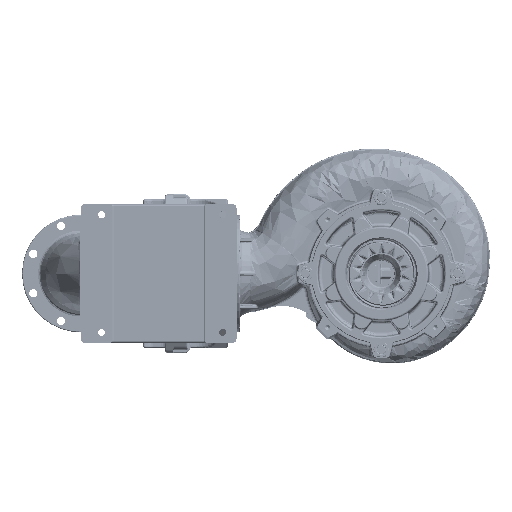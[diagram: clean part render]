
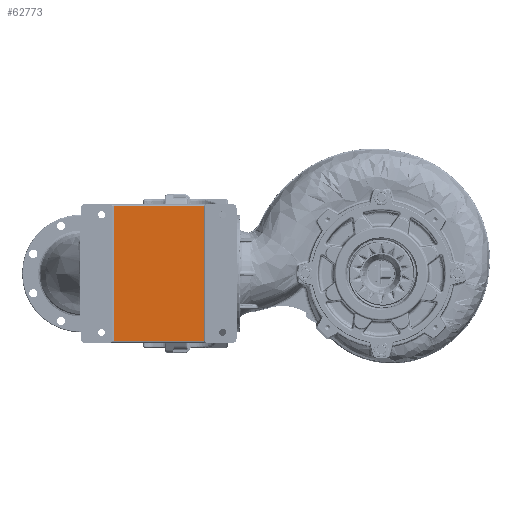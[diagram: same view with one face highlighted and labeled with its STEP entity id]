
A CAD part, front view. The second image highlights one B-rep face of the part: STEP entity #62773.
In plain terms, the highlighted planar face has unit normal (0, -1, 0).
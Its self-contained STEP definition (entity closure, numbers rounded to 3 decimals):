
#6106 = CARTESIAN_POINT ( 'NONE',  ( -779., -699.702, 195. ) ) ;
#8032 = VERTEX_POINT ( 'NONE', #438526 ) ;
#28357 = VECTOR ( 'NONE', #171329, 1000. ) ;
#34060 = EDGE_CURVE ( 'NONE', #409146, #8032, #282440, .T. ) ;
#34143 = LINE ( 'NONE', #88910, #28357 ) ;
#62773 = ADVANCED_FACE ( 'NONE', ( #304450 ), #70603, .F. ) ;
#70603 = PLANE ( 'NONE',  #296188 ) ;
#87989 = ORIENTED_EDGE ( 'NONE', *, *, #182822, .T. ) ;
#88877 = LINE ( 'NONE', #318856, #492190 ) ;
#88910 = CARTESIAN_POINT ( 'NONE',  ( -774., -699.702, -200. ) ) ;
#89254 = EDGE_CURVE ( 'NONE', #379723, #361858, #279389, .T. ) ;
#89812 = CARTESIAN_POINT ( 'NONE',  ( -774., -699.702, -195. ) ) ;
#133929 = ORIENTED_EDGE ( 'NONE', *, *, #89254, .T. ) ;
#144675 = DIRECTION ( 'NONE',  ( 0., 0., 1. ) ) ;
#148595 = EDGE_LOOP ( 'NONE', ( #133929, #450123, #322228, #87989 ) ) ;
#171329 = DIRECTION ( 'NONE',  ( 0., 0., -1. ) ) ;
#182822 = EDGE_CURVE ( 'NONE', #8032, #379723, #34143, .T. ) ;
#223633 = DIRECTION ( 'NONE',  ( 0., 1., 0. ) ) ;
#223785 = CARTESIAN_POINT ( 'NONE',  ( -509., -699.702, -195. ) ) ;
#228755 = DIRECTION ( 'NONE',  ( 1., 0., 0. ) ) ;
#241523 = DIRECTION ( 'NONE',  ( 0., 0., 1. ) ) ;
#279389 = LINE ( 'NONE', #223785, #471861 ) ;
#282440 = LINE ( 'NONE', #6106, #481130 ) ;
#291017 = EDGE_CURVE ( 'NONE', #361858, #409146, #88877, .T. ) ;
#296188 = AXIS2_PLACEMENT_3D ( 'NONE', #336274, #223633, #144675 ) ;
#304450 = FACE_OUTER_BOUND ( 'NONE', #148595, .T. ) ;
#318856 = CARTESIAN_POINT ( 'NONE',  ( -514., -699.702, 200. ) ) ;
#322228 = ORIENTED_EDGE ( 'NONE', *, *, #34060, .T. ) ;
#336274 = CARTESIAN_POINT ( 'NONE',  ( -779., -699.702, -230. ) ) ;
#361858 = VERTEX_POINT ( 'NONE', #406764 ) ;
#379723 = VERTEX_POINT ( 'NONE', #89812 ) ;
#406764 = CARTESIAN_POINT ( 'NONE',  ( -514., -699.702, -195. ) ) ;
#409146 = VERTEX_POINT ( 'NONE', #426843 ) ;
#426843 = CARTESIAN_POINT ( 'NONE',  ( -514., -699.702, 195. ) ) ;
#429789 = DIRECTION ( 'NONE',  ( -1., 0., 0. ) ) ;
#438526 = CARTESIAN_POINT ( 'NONE',  ( -774., -699.702, 195. ) ) ;
#450123 = ORIENTED_EDGE ( 'NONE', *, *, #291017, .T. ) ;
#471861 = VECTOR ( 'NONE', #228755, 1000. ) ;
#481130 = VECTOR ( 'NONE', #429789, 1000. ) ;
#492190 = VECTOR ( 'NONE', #241523, 1000. ) ;
